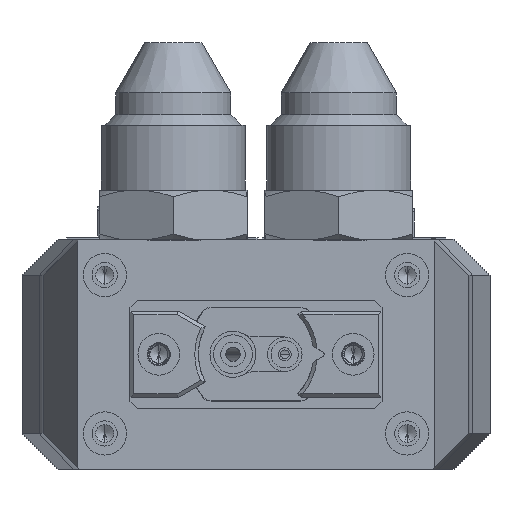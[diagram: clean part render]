
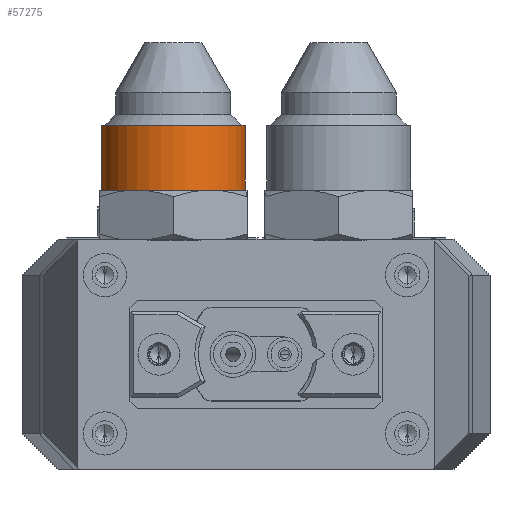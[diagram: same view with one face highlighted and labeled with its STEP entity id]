
A CAD part, front view. The second image highlights one B-rep face of the part: STEP entity #57275.
In plain terms, the highlighted cylindrical face has radius 10 mm (diameter 20 mm), a partial arc.
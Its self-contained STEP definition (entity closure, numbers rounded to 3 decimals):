
#1953 = VECTOR ( 'NONE', #16429, 1000. ) ;
#2196 = ORIENTED_EDGE ( 'NONE', *, *, #52945, .T. ) ;
#3365 = CIRCLE ( 'NONE', #38020, 10. ) ;
#3543 = DIRECTION ( 'NONE',  ( 0., 0., -1. ) ) ;
#4104 = CARTESIAN_POINT ( 'NONE',  ( -84.455, -144.23, 1052.575 ) ) ;
#5036 = EDGE_CURVE ( 'NONE', #56274, #33628, #3365, .T. ) ;
#6766 = VECTOR ( 'NONE', #13025, 1000. ) ;
#12713 = CARTESIAN_POINT ( 'NONE',  ( -94.455, -144.23, 1052.575 ) ) ;
#13025 = DIRECTION ( 'NONE',  ( 0., 0., 1. ) ) ;
#14125 = VERTEX_POINT ( 'NONE', #15030 ) ;
#14588 = FACE_OUTER_BOUND ( 'NONE', #45439, .T. ) ;
#15030 = CARTESIAN_POINT ( 'NONE',  ( -74.455, -144.23, 1021.303 ) ) ;
#15699 = CARTESIAN_POINT ( 'NONE',  ( -74.455, -144.23, 1030.303 ) ) ;
#16301 = CARTESIAN_POINT ( 'NONE',  ( -84.455, -144.23, 1021.303 ) ) ;
#16429 = DIRECTION ( 'NONE',  ( 0., 0., 1. ) ) ;
#18621 = ORIENTED_EDGE ( 'NONE', *, *, #58339, .T. ) ;
#19924 = AXIS2_PLACEMENT_3D ( 'NONE', #4104, #55920, #37582 ) ;
#20801 = CARTESIAN_POINT ( 'NONE',  ( -94.455, -144.23, 1021.303 ) ) ;
#23222 = EDGE_CURVE ( 'NONE', #25622, #33628, #36300, .T. ) ;
#25622 = VERTEX_POINT ( 'NONE', #20801 ) ;
#26800 = AXIS2_PLACEMENT_3D ( 'NONE', #16301, #54815, #59475 ) ;
#30818 = DIRECTION ( 'NONE',  ( 1., 0., 0. ) ) ;
#32607 = CYLINDRICAL_SURFACE ( 'NONE', #19924, 10. ) ;
#33628 = VERTEX_POINT ( 'NONE', #34060 ) ;
#34060 = CARTESIAN_POINT ( 'NONE',  ( -94.455, -144.23, 1030.303 ) ) ;
#36300 = LINE ( 'NONE', #12713, #1953 ) ;
#37582 = DIRECTION ( 'NONE',  ( 1., 0., 0. ) ) ;
#38020 = AXIS2_PLACEMENT_3D ( 'NONE', #50385, #3543, #30818 ) ;
#41593 = LINE ( 'NONE', #45951, #6766 ) ;
#45439 = EDGE_LOOP ( 'NONE', ( #60743, #18621, #2196, #56541 ) ) ;
#45951 = CARTESIAN_POINT ( 'NONE',  ( -74.455, -144.23, 1052.575 ) ) ;
#50385 = CARTESIAN_POINT ( 'NONE',  ( -84.455, -144.23, 1030.303 ) ) ;
#52945 = EDGE_CURVE ( 'NONE', #14125, #56274, #41593, .T. ) ;
#54815 = DIRECTION ( 'NONE',  ( 0., 0., 1. ) ) ;
#55920 = DIRECTION ( 'NONE',  ( 0., 0., 1. ) ) ;
#56274 = VERTEX_POINT ( 'NONE', #15699 ) ;
#56541 = ORIENTED_EDGE ( 'NONE', *, *, #5036, .T. ) ;
#57275 = ADVANCED_FACE ( 'NONE', ( #14588 ), #32607, .T. ) ;
#57517 = CIRCLE ( 'NONE', #26800, 10. ) ;
#58339 = EDGE_CURVE ( 'NONE', #25622, #14125, #57517, .T. ) ;
#59475 = DIRECTION ( 'NONE',  ( 1., 0., 0. ) ) ;
#60743 = ORIENTED_EDGE ( 'NONE', *, *, #23222, .F. ) ;
